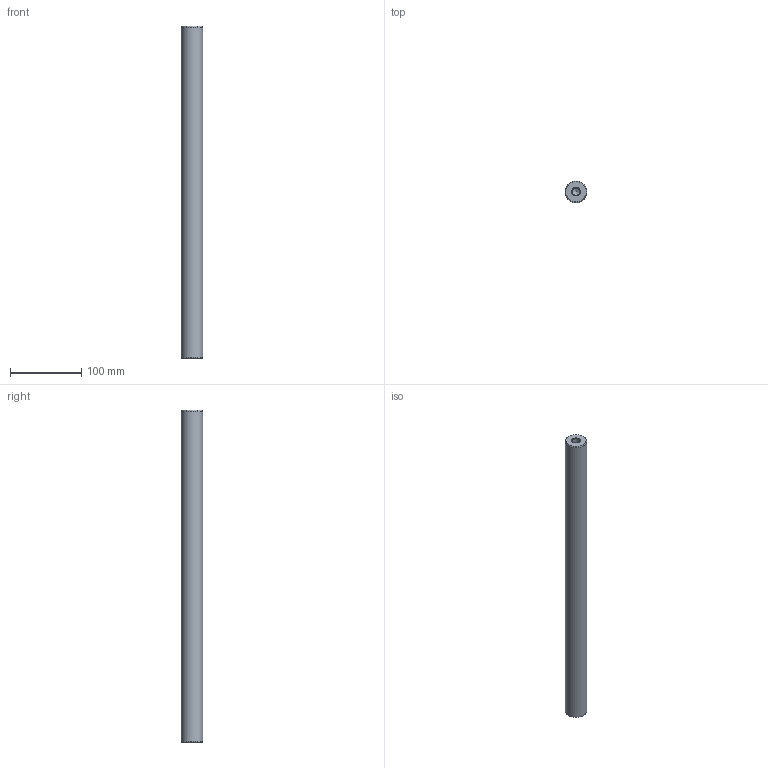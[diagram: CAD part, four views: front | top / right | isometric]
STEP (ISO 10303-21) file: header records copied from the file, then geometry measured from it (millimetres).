
FILE_DESCRIPTION( ( 'STEP AP214' ), '1' );
FILE_NAME( 'U:/Etudes/Top Solid/BIBLIO 3D AVM/STEP/G_GUIDAGE/Accessoires/Colonnes/Ø30x465.step', '2007-06-18T12:25:15', ( ' ' ), ( ' ' ), 'XStep 1.0', ' ', ' ' );
FILE_SCHEMA( ( 'automotive_design' ) );
Length unit declared in the file: metre
Products named in the file (1): 1
Bounding box: 30 x 30 x 465 mm (x, y, z)
Volume: 323357 mm3; surface area: 47148.7 mm2
Topology: 1 solids, 1 shells, 13 faces, 27 edges, 16 vertices
Faces by surface type: cone 6, cylinder 5, plane 2
Full cylindrical faces by diameter (mm): 10.106 x4, 30 x1
Entity records: 382 total; most frequent: DIRECTION 52, CARTESIAN_POINT 40, AXIS2_PLACEMENT_3D 26, EDGE_LOOP 24, ORIENTED_EDGE 24, FACE_OUTER_BOUND 18, VERTEX_POINT 14, STYLED_ITEM 13
